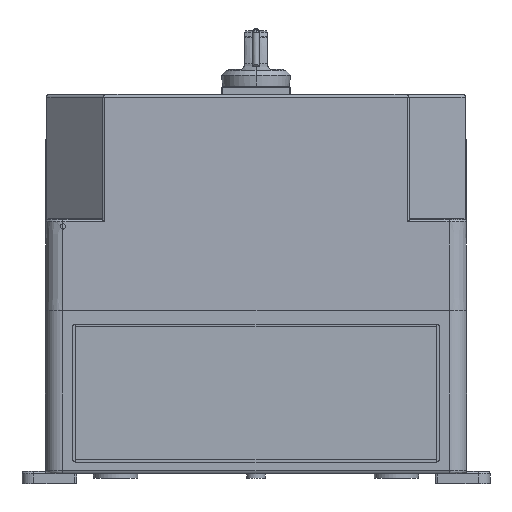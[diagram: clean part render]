
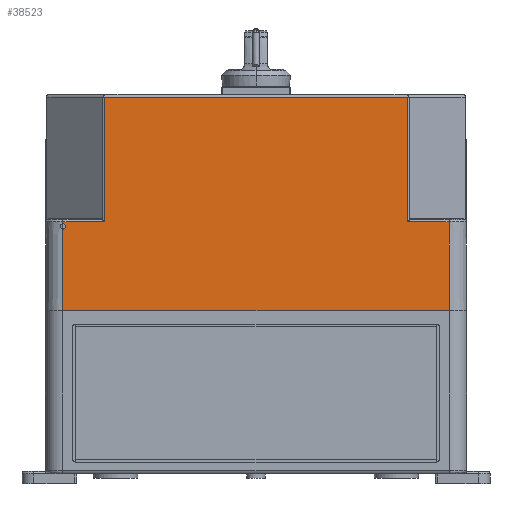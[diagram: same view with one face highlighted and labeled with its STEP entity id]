
A CAD part, left-side view. The second image highlights one B-rep face of the part: STEP entity #38523.
In plain terms, the highlighted planar face has unit normal (-1, 0, 0.004).
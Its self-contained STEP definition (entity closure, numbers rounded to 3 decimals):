
#2833 = ORIENTED_EDGE ( 'NONE', *, *, #140292, .T. ) ;
#4300 = DIRECTION ( 'NONE',  ( 0.003, 0., 1. ) ) ;
#5788 = DIRECTION ( 'NONE',  ( 0.003, 0., 1. ) ) ;
#7846 = EDGE_CURVE ( 'NONE', #50673, #97509, #66790, .T. ) ;
#8302 = EDGE_CURVE ( 'NONE', #113520, #131882, #125007, .T. ) ;
#10029 = CARTESIAN_POINT ( 'NONE',  ( -91., 64.677, 0. ) ) ;
#10601 = DIRECTION ( 'NONE',  ( 0., -1., 0. ) ) ;
#12150 = VECTOR ( 'NONE', #4300, 1000. ) ;
#12767 = LINE ( 'NONE', #39609, #12150 ) ;
#15990 = VECTOR ( 'NONE', #5788, 1000. ) ;
#17219 = VECTOR ( 'NONE', #149446, 1000. ) ;
#18093 = LINE ( 'NONE', #78563, #150047 ) ;
#24100 = CARTESIAN_POINT ( 'NONE',  ( -90.87, 82.5, 37.1 ) ) ;
#29591 = LINE ( 'NONE', #133895, #15990 ) ;
#37018 = DIRECTION ( 'NONE',  ( 0.003, 0., 1. ) ) ;
#37380 = DIRECTION ( 'NONE',  ( 0., 1., 0. ) ) ;
#38523 = ADVANCED_FACE ( 'NONE', ( #108169 ), #83558, .T. ) ;
#39609 = CARTESIAN_POINT ( 'NONE',  ( -91., -64.677, 0. ) ) ;
#46004 = VECTOR ( 'NONE', #10601, 1000. ) ;
#49077 = DIRECTION ( 'NONE',  ( -0.003, 0., -1. ) ) ;
#50673 = VERTEX_POINT ( 'NONE', #68478 ) ;
#52596 = DIRECTION ( 'NONE',  ( -0.003, 0., -1. ) ) ;
#53858 = CARTESIAN_POINT ( 'NONE',  ( -91., 82.5, 0. ) ) ;
#54061 = CARTESIAN_POINT ( 'NONE',  ( -90.867, 64.677, 38.003 ) ) ;
#56241 = VERTEX_POINT ( 'NONE', #89455 ) ;
#57817 = CARTESIAN_POINT ( 'NONE',  ( -90.867, -64.677, 38.003 ) ) ;
#62012 = ORIENTED_EDGE ( 'NONE', *, *, #141428, .T. ) ;
#64331 = EDGE_CURVE ( 'NONE', #113345, #133484, #12767, .T. ) ;
#65153 = CARTESIAN_POINT ( 'NONE',  ( -91., 55., 0. ) ) ;
#66790 = LINE ( 'NONE', #10029, #88145 ) ;
#68478 = CARTESIAN_POINT ( 'NONE',  ( -90.682, 64.677, 91.005 ) ) ;
#68908 = CARTESIAN_POINT ( 'NONE',  ( -90.682, -150., 91.005 ) ) ;
#71300 = ORIENTED_EDGE ( 'NONE', *, *, #106966, .T. ) ;
#73373 = CARTESIAN_POINT ( 'NONE',  ( -90.867, 55., 38.003 ) ) ;
#73508 = ORIENTED_EDGE ( 'NONE', *, *, #73600, .F. ) ;
#73600 = EDGE_CURVE ( 'NONE', #50673, #133484, #125009, .T. ) ;
#73714 = EDGE_LOOP ( 'NONE', ( #106012, #141478, #137129, #62012, #102976, #71300, #2833, #142280, #73508, #147780 ) ) ;
#78563 = CARTESIAN_POINT ( 'NONE',  ( -91., 82.5, 0. ) ) ;
#83094 = CARTESIAN_POINT ( 'NONE',  ( -90.878, 82.5, 34.9 ) ) ;
#83558 = PLANE ( 'NONE',  #91984 ) ;
#83831 = CARTESIAN_POINT ( 'NONE',  ( -90.87, 80.3, 37.1 ) ) ;
#84341 = VECTOR ( 'NONE', #37018, 1000. ) ;
#86654 = VERTEX_POINT ( 'NONE', #114706 ) ;
#88145 = VECTOR ( 'NONE', #123675, 1000. ) ;
#88768 = VECTOR ( 'NONE', #37380, 1000. ) ;
#89455 = CARTESIAN_POINT ( 'NONE',  ( -90.867, -82.5, 38.003 ) ) ;
#91984 = AXIS2_PLACEMENT_3D ( 'NONE', #141179, #118956, #49077 ) ;
#93742 = VERTEX_POINT ( 'NONE', #94748 ) ;
#94748 = CARTESIAN_POINT ( 'NONE',  ( -90.867, 82.5, 38.003 ) ) ;
#97509 = VERTEX_POINT ( 'NONE', #54061 ) ;
#98190 = CARTESIAN_POINT ( 'NONE',  ( -90.867, 55., 38.003 ) ) ;
#102976 = ORIENTED_EDGE ( 'NONE', *, *, #8302, .T. ) ;
#106012 = ORIENTED_EDGE ( 'NONE', *, *, #126653, .T. ) ;
#106966 = EDGE_CURVE ( 'NONE', #131882, #56241, #29591, .T. ) ;
#107161 = EDGE_CURVE ( 'NONE', #108479, #86654, #117725, .T. ) ;
#107577 = LINE ( 'NONE', #142830, #84341 ) ;
#107703 = CARTESIAN_POINT ( 'NONE',  ( -90.878, 80.3, 34.9 ) ) ;
#108169 = FACE_OUTER_BOUND ( 'NONE', #73714, .T. ) ;
#108479 = VERTEX_POINT ( 'NONE', #119208 ) ;
#113345 = VERTEX_POINT ( 'NONE', #57817 ) ;
#113520 = VERTEX_POINT ( 'NONE', #53858 ) ;
#114706 = CARTESIAN_POINT ( 'NONE',  ( -90.878, 82.5, 34.9 ) ) ;
#117725 =( BOUNDED_CURVE ( )  B_SPLINE_CURVE ( 3, ( #24100, #83831, #107703, #83094 ),
 .UNSPECIFIED., .F., .T. ) 
 B_SPLINE_CURVE_WITH_KNOTS ( ( 4, 4 ),
 ( 0., 3.142 ),
 .UNSPECIFIED. ) 
 CURVE ( )  GEOMETRIC_REPRESENTATION_ITEM ( )  RATIONAL_B_SPLINE_CURVE ( ( 1., 0.333, 0.333, 1. ) ) 
 REPRESENTATION_ITEM ( '' )  );
#118956 = DIRECTION ( 'NONE',  ( -1., 0., 0.003 ) ) ;
#119208 = CARTESIAN_POINT ( 'NONE',  ( -90.87, 82.5, 37.1 ) ) ;
#121204 = LINE ( 'NONE', #98190, #132160 ) ;
#123675 = DIRECTION ( 'NONE',  ( -0.003, 0., -1. ) ) ;
#125007 = LINE ( 'NONE', #65153, #17219 ) ;
#125009 = LINE ( 'NONE', #68908, #46004 ) ;
#126653 = EDGE_CURVE ( 'NONE', #97509, #93742, #121204, .T. ) ;
#127394 = CARTESIAN_POINT ( 'NONE',  ( -90.682, -64.677, 91.005 ) ) ;
#127759 = CARTESIAN_POINT ( 'NONE',  ( -91., -82.5, 0. ) ) ;
#131322 = EDGE_CURVE ( 'NONE', #108479, #93742, #107577, .T. ) ;
#131882 = VERTEX_POINT ( 'NONE', #127759 ) ;
#132160 = VECTOR ( 'NONE', #148510, 1000. ) ;
#133484 = VERTEX_POINT ( 'NONE', #127394 ) ;
#133895 = CARTESIAN_POINT ( 'NONE',  ( -91., -82.5, 0. ) ) ;
#133946 = LINE ( 'NONE', #73373, #88768 ) ;
#137129 = ORIENTED_EDGE ( 'NONE', *, *, #107161, .T. ) ;
#140292 = EDGE_CURVE ( 'NONE', #56241, #113345, #133946, .T. ) ;
#141179 = CARTESIAN_POINT ( 'NONE',  ( -91., 55., 0. ) ) ;
#141428 = EDGE_CURVE ( 'NONE', #86654, #113520, #18093, .T. ) ;
#141478 = ORIENTED_EDGE ( 'NONE', *, *, #131322, .F. ) ;
#142280 = ORIENTED_EDGE ( 'NONE', *, *, #64331, .T. ) ;
#142830 = CARTESIAN_POINT ( 'NONE',  ( -91., 82.5, 0. ) ) ;
#147780 = ORIENTED_EDGE ( 'NONE', *, *, #7846, .T. ) ;
#148510 = DIRECTION ( 'NONE',  ( 0., 1., 0. ) ) ;
#149446 = DIRECTION ( 'NONE',  ( 0., -1., 0. ) ) ;
#150047 = VECTOR ( 'NONE', #52596, 1000. ) ;
